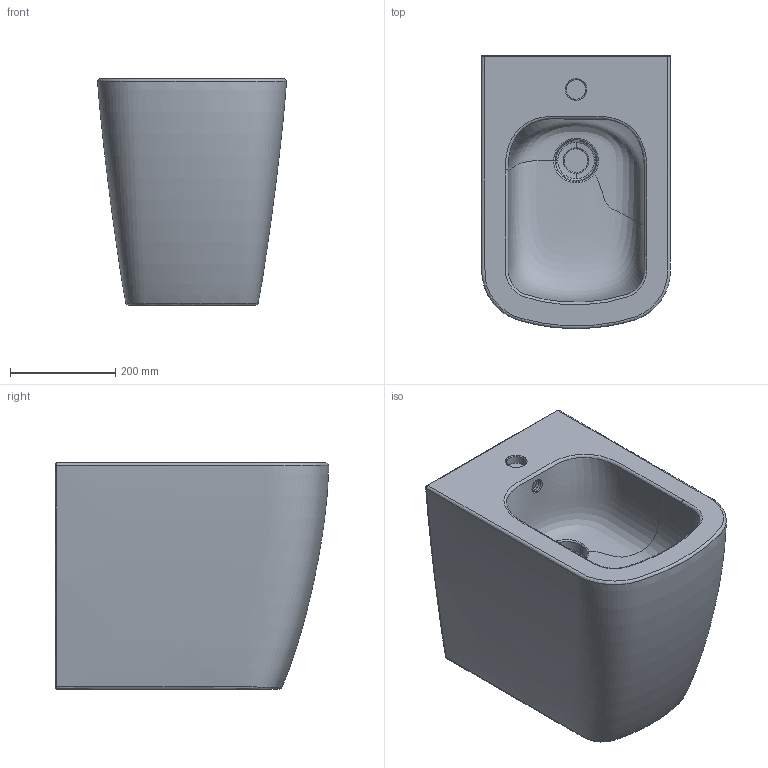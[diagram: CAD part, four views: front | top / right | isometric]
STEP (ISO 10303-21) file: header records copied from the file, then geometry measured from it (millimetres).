
FILE_DESCRIPTION(/* description */ (''),/* implementation_level */ '2;1');
FILE_NAME(/* name */ 'PY217',/* time_stamp */ '2024-05-02T17:28:04+02:00',/* author */ (''),/* organization */ (''),/* preprocessor_version */ 'ST-DEVELOPER v16.5',/* originating_system */ 'Rhino 7.36',/* authorisation */ '');
FILE_SCHEMA (('CONFIG_CONTROL_DESIGN'));
Length unit declared in the file: millimetre
Products named in the file (1): Document
Bounding box: 359.43 x 519.91 x 430 mm (x, y, z)
Volume: 53117109.8 mm3; surface area: 1058967 mm2
Topology: 1 solids, 1 shells, 50 faces, 108 edges, 64 vertices
Faces by surface type: bspline 33, plane 9, cylinder 8
Entity records: 18787 total; most frequent: CARTESIAN_POINT 18070, ORIENTED_EDGE 216, EDGE_CURVE 108, VERTEX_POINT 64, EDGE_LOOP 54, ADVANCED_FACE 50, FACE_OUTER_BOUND 50, B_SPLINE_CURVE_WITH_KNOTS 25
